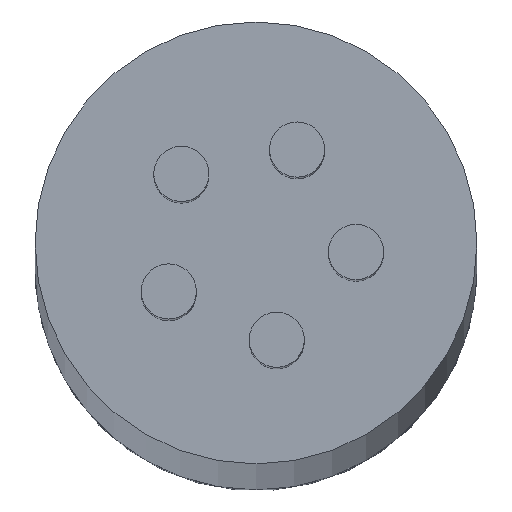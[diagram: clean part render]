
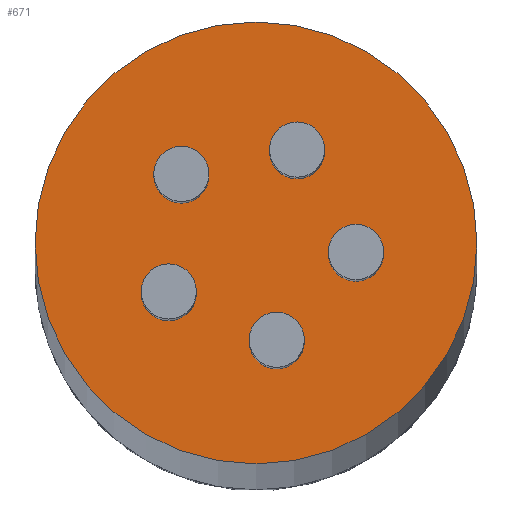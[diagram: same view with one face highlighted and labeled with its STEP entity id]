
A CAD part, top view. The second image highlights one B-rep face of the part: STEP entity #671.
In plain terms, the highlighted planar face has unit normal (0, 0, 1).
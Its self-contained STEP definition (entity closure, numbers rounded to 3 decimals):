
#3 = FACE_BOUND ( 'NONE', #574, .T. ) ;
#27 = CARTESIAN_POINT ( 'NONE',  ( 0.563, -2.673, 400. ) ) ;
#36 = CARTESIAN_POINT ( 'NONE',  ( -2.368, -1.361, 400. ) ) ;
#37 = EDGE_CURVE ( 'NONE', #317, #922, #741, .T. ) ;
#49 = AXIS2_PLACEMENT_3D ( 'NONE', #53, #420, #630 ) ;
#53 = CARTESIAN_POINT ( 'NONE',  ( -2.027, 1.831, 400. ) ) ;
#56 = EDGE_CURVE ( 'NONE', #197, #632, #528, .T. ) ;
#63 = CARTESIAN_POINT ( 'NONE',  ( -2.777, 1.831, 400. ) ) ;
#73 = CARTESIAN_POINT ( 'NONE',  ( -2.027, 1.831, 400. ) ) ;
#79 = CARTESIAN_POINT ( 'NONE',  ( 1.865, 2.493, 400. ) ) ;
#88 = CARTESIAN_POINT ( 'NONE',  ( -0.187, -2.673, 400. ) ) ;
#93 = CIRCLE ( 'NONE', #49, 0.75 ) ;
#120 = VERTEX_POINT ( 'NONE', #63 ) ;
#121 = ORIENTED_EDGE ( 'NONE', *, *, #446, .F. ) ;
#130 = ORIENTED_EDGE ( 'NONE', *, *, #532, .F. ) ;
#144 = VERTEX_POINT ( 'NONE', #262 ) ;
#162 = CIRCLE ( 'NONE', #383, 0.75 ) ;
#170 = AXIS2_PLACEMENT_3D ( 'NONE', #513, #865, #359 ) ;
#175 = DIRECTION ( 'NONE',  ( 1., 0., 0. ) ) ;
#192 = DIRECTION ( 'NONE',  ( 1., 0., 0. ) ) ;
#194 = ORIENTED_EDGE ( 'NONE', *, *, #56, .F. ) ;
#197 = VERTEX_POINT ( 'NONE', #855 ) ;
#211 = DIRECTION ( 'NONE',  ( 0., 0., 1. ) ) ;
#212 = CARTESIAN_POINT ( 'NONE',  ( 2.716, -0.29, 400. ) ) ;
#218 = VERTEX_POINT ( 'NONE', #704 ) ;
#220 = VERTEX_POINT ( 'NONE', #343 ) ;
#224 = AXIS2_PLACEMENT_3D ( 'NONE', #748, #460, #535 ) ;
#225 = CIRCLE ( 'NONE', #400, 0.75 ) ;
#226 = DIRECTION ( 'NONE',  ( 0., 0., 1. ) ) ;
#240 = AXIS2_PLACEMENT_3D ( 'NONE', #548, #483, #691 ) ;
#247 = CARTESIAN_POINT ( 'NONE',  ( -2.368, -1.361, 400. ) ) ;
#250 = CIRCLE ( 'NONE', #841, 6. ) ;
#252 = EDGE_CURVE ( 'NONE', #220, #348, #347, .T. ) ;
#254 = ORIENTED_EDGE ( 'NONE', *, *, #526, .F. ) ;
#255 = ORIENTED_EDGE ( 'NONE', *, *, #864, .T. ) ;
#262 = CARTESIAN_POINT ( 'NONE',  ( 1.966, -0.29, 400. ) ) ;
#291 = EDGE_CURVE ( 'NONE', #144, #444, #476, .T. ) ;
#293 = DIRECTION ( 'NONE',  ( 1., 0., 0. ) ) ;
#295 = DIRECTION ( 'NONE',  ( 0., 0., 1. ) ) ;
#300 = EDGE_CURVE ( 'NONE', #922, #317, #906, .T. ) ;
#304 = ORIENTED_EDGE ( 'NONE', *, *, #300, .F. ) ;
#310 = DIRECTION ( 'NONE',  ( 1., 0., 0. ) ) ;
#313 = EDGE_CURVE ( 'NONE', #120, #218, #225, .T. ) ;
#317 = VERTEX_POINT ( 'NONE', #79 ) ;
#341 = ORIENTED_EDGE ( 'NONE', *, *, #291, .F. ) ;
#343 = CARTESIAN_POINT ( 'NONE',  ( -6., 0., 400. ) ) ;
#347 = CIRCLE ( 'NONE', #901, 6. ) ;
#348 = VERTEX_POINT ( 'NONE', #352 ) ;
#352 = CARTESIAN_POINT ( 'NONE',  ( 6., 0., 400. ) ) ;
#359 = DIRECTION ( 'NONE',  ( 1., 0., 0. ) ) ;
#364 = FACE_BOUND ( 'NONE', #417, .T. ) ;
#371 = CARTESIAN_POINT ( 'NONE',  ( 0., 0., 400. ) ) ;
#383 = AXIS2_PLACEMENT_3D ( 'NONE', #27, #889, #175 ) ;
#393 = CARTESIAN_POINT ( 'NONE',  ( 0., 0., 400. ) ) ;
#400 = AXIS2_PLACEMENT_3D ( 'NONE', #73, #211, #938 ) ;
#408 = CARTESIAN_POINT ( 'NONE',  ( -1.618, -1.361, 400. ) ) ;
#417 = EDGE_LOOP ( 'NONE', ( #656, #595 ) ) ;
#420 = DIRECTION ( 'NONE',  ( 0., 0., 1. ) ) ;
#429 = VERTEX_POINT ( 'NONE', #88 ) ;
#436 = ORIENTED_EDGE ( 'NONE', *, *, #37, .F. ) ;
#444 = VERTEX_POINT ( 'NONE', #584 ) ;
#446 = EDGE_CURVE ( 'NONE', #444, #144, #629, .T. ) ;
#460 = DIRECTION ( 'NONE',  ( 0., 0., 1. ) ) ;
#476 = CIRCLE ( 'NONE', #773, 0.75 ) ;
#483 = DIRECTION ( 'NONE',  ( 0., 0., 1. ) ) ;
#484 = EDGE_CURVE ( 'NONE', #632, #197, #815, .T. ) ;
#485 = PLANE ( 'NONE',  #825 ) ;
#497 = FACE_BOUND ( 'NONE', #870, .T. ) ;
#503 = DIRECTION ( 'NONE',  ( 1., 0., 0. ) ) ;
#506 = AXIS2_PLACEMENT_3D ( 'NONE', #247, #822, #310 ) ;
#507 = DIRECTION ( 'NONE',  ( 0., 0., 1. ) ) ;
#513 = CARTESIAN_POINT ( 'NONE',  ( 1.115, 2.493, 400. ) ) ;
#526 = EDGE_CURVE ( 'NONE', #869, #429, #162, .T. ) ;
#528 = CIRCLE ( 'NONE', #932, 0.75 ) ;
#532 = EDGE_CURVE ( 'NONE', #429, #869, #686, .T. ) ;
#535 = DIRECTION ( 'NONE',  ( 1., 0., 0. ) ) ;
#537 = DIRECTION ( 'NONE',  ( 1., 0., 0. ) ) ;
#543 = DIRECTION ( 'NONE',  ( 0., 0., 1. ) ) ;
#548 = CARTESIAN_POINT ( 'NONE',  ( 1.115, 2.493, 400. ) ) ;
#550 = ORIENTED_EDGE ( 'NONE', *, *, #484, .F. ) ;
#565 = EDGE_LOOP ( 'NONE', ( #896, #255 ) ) ;
#573 = CARTESIAN_POINT ( 'NONE',  ( 0., 0., 400. ) ) ;
#574 = EDGE_LOOP ( 'NONE', ( #304, #436 ) ) ;
#584 = CARTESIAN_POINT ( 'NONE',  ( 3.466, -0.29, 400. ) ) ;
#587 = CARTESIAN_POINT ( 'NONE',  ( 1.313, -2.673, 400. ) ) ;
#590 = DIRECTION ( 'NONE',  ( 1., 0., 0. ) ) ;
#595 = ORIENTED_EDGE ( 'NONE', *, *, #784, .F. ) ;
#611 = AXIS2_PLACEMENT_3D ( 'NONE', #659, #226, #802 ) ;
#629 = CIRCLE ( 'NONE', #611, 0.75 ) ;
#630 = DIRECTION ( 'NONE',  ( 1., 0., 0. ) ) ;
#632 = VERTEX_POINT ( 'NONE', #408 ) ;
#648 = FACE_BOUND ( 'NONE', #861, .T. ) ;
#656 = ORIENTED_EDGE ( 'NONE', *, *, #313, .F. ) ;
#659 = CARTESIAN_POINT ( 'NONE',  ( 2.716, -0.29, 400. ) ) ;
#671 = ADVANCED_FACE ( 'NONE', ( #648, #497, #3, #364, #777, #929 ), #485, .T. ) ;
#686 = CIRCLE ( 'NONE', #224, 0.75 ) ;
#691 = DIRECTION ( 'NONE',  ( 1., 0., 0. ) ) ;
#704 = CARTESIAN_POINT ( 'NONE',  ( -1.277, 1.831, 400. ) ) ;
#741 = CIRCLE ( 'NONE', #240, 0.75 ) ;
#748 = CARTESIAN_POINT ( 'NONE',  ( 0.563, -2.673, 400. ) ) ;
#773 = AXIS2_PLACEMENT_3D ( 'NONE', #212, #507, #293 ) ;
#777 = FACE_BOUND ( 'NONE', #797, .T. ) ;
#784 = EDGE_CURVE ( 'NONE', #218, #120, #93, .T. ) ;
#797 = EDGE_LOOP ( 'NONE', ( #194, #550 ) ) ;
#802 = DIRECTION ( 'NONE',  ( 1., 0., 0. ) ) ;
#810 = CARTESIAN_POINT ( 'NONE',  ( 0.365, 2.493, 400. ) ) ;
#815 = CIRCLE ( 'NONE', #506, 0.75 ) ;
#822 = DIRECTION ( 'NONE',  ( 0., 0., 1. ) ) ;
#825 = AXIS2_PLACEMENT_3D ( 'NONE', #393, #915, #192 ) ;
#841 = AXIS2_PLACEMENT_3D ( 'NONE', #371, #886, #590 ) ;
#855 = CARTESIAN_POINT ( 'NONE',  ( -3.118, -1.361, 400. ) ) ;
#861 = EDGE_LOOP ( 'NONE', ( #130, #254 ) ) ;
#864 = EDGE_CURVE ( 'NONE', #348, #220, #250, .T. ) ;
#865 = DIRECTION ( 'NONE',  ( 0., 0., 1. ) ) ;
#869 = VERTEX_POINT ( 'NONE', #587 ) ;
#870 = EDGE_LOOP ( 'NONE', ( #341, #121 ) ) ;
#886 = DIRECTION ( 'NONE',  ( 0., 0., 1. ) ) ;
#889 = DIRECTION ( 'NONE',  ( 0., 0., 1. ) ) ;
#896 = ORIENTED_EDGE ( 'NONE', *, *, #252, .T. ) ;
#901 = AXIS2_PLACEMENT_3D ( 'NONE', #573, #295, #503 ) ;
#906 = CIRCLE ( 'NONE', #170, 0.75 ) ;
#915 = DIRECTION ( 'NONE',  ( 0., 0., 1. ) ) ;
#922 = VERTEX_POINT ( 'NONE', #810 ) ;
#929 = FACE_OUTER_BOUND ( 'NONE', #565, .T. ) ;
#932 = AXIS2_PLACEMENT_3D ( 'NONE', #36, #543, #537 ) ;
#938 = DIRECTION ( 'NONE',  ( 1., 0., 0. ) ) ;
